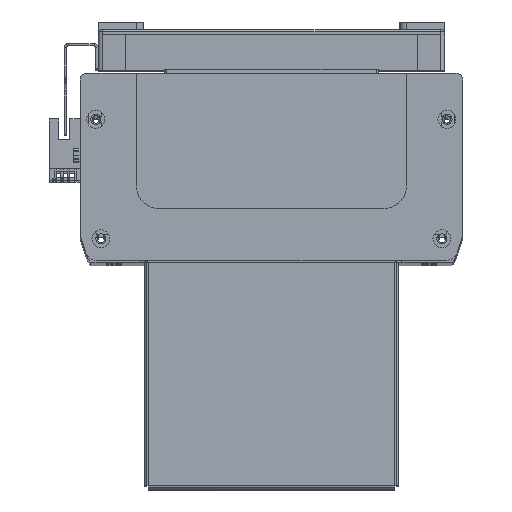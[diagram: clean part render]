
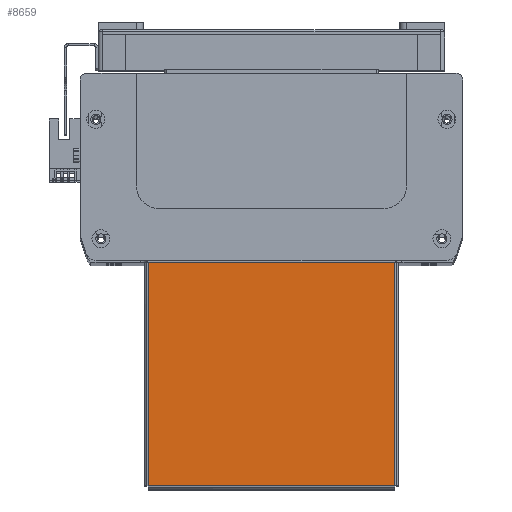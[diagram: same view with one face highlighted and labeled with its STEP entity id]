
A CAD part, top view. The second image highlights one B-rep face of the part: STEP entity #8659.
In plain terms, the highlighted planar face has unit normal (0, 0, 1).
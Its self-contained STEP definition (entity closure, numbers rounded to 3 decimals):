
#318 = CARTESIAN_POINT ( 'NONE',  ( -54.763, -49.263, 0. ) ) ;
#342 = CARTESIAN_POINT ( 'NONE',  ( 54.763, 50., 0. ) ) ;
#343 = CARTESIAN_POINT ( 'NONE',  ( 54.763, -49.263, 0. ) ) ;
#357 = CARTESIAN_POINT ( 'NONE',  ( -54.763, 50., 0. ) ) ;
#1985 = EDGE_LOOP ( 'NONE', ( #33148, #33144, #33143, #33154 ) ) ;
#3549 = LINE ( 'NONE', #12715, #3561 ) ;
#3561 = VECTOR ( 'NONE', #12712, 1000. ) ;
#3564 = LINE ( 'NONE', #12704, #3565 ) ;
#3565 = VECTOR ( 'NONE', #12747, 1000. ) ;
#3593 = LINE ( 'NONE', #12790, #3628 ) ;
#3612 = VECTOR ( 'NONE', #12846, 1000. ) ;
#3628 = VECTOR ( 'NONE', #12791, 1000. ) ;
#3632 = LINE ( 'NONE', #12845, #3612 ) ;
#8659 = ADVANCED_FACE ( 'NONE', ( #18585 ), #22656, .T. ) ;
#12704 = CARTESIAN_POINT ( 'NONE',  ( -54.763, 50., 0. ) ) ;
#12712 = DIRECTION ( 'NONE',  ( -1., 0., 0. ) ) ;
#12715 = CARTESIAN_POINT ( 'NONE',  ( -55.5, 50., 0. ) ) ;
#12747 = DIRECTION ( 'NONE',  ( 0., -1., 0. ) ) ;
#12790 = CARTESIAN_POINT ( 'NONE',  ( 54.763, -49.293, 0. ) ) ;
#12791 = DIRECTION ( 'NONE',  ( 0., 1., 0. ) ) ;
#12845 = CARTESIAN_POINT ( 'NONE',  ( -54.793, -49.263, 0. ) ) ;
#12846 = DIRECTION ( 'NONE',  ( 1., 0., 0. ) ) ;
#18585 = FACE_OUTER_BOUND ( 'NONE', #1985, .T. ) ;
#20675 = EDGE_CURVE ( 'NONE', #45544, #45561, #3549, .T. ) ;
#20688 = EDGE_CURVE ( 'NONE', #45561, #45541, #3564, .T. ) ;
#20716 = EDGE_CURVE ( 'NONE', #45530, #45544, #3593, .T. ) ;
#20732 = EDGE_CURVE ( 'NONE', #45541, #45530, #3632, .T. ) ;
#22650 = CARTESIAN_POINT ( 'NONE',  ( 0., 0., 0. ) ) ;
#22653 = DIRECTION ( 'NONE',  ( 0., 0., 1. ) ) ;
#22656 = PLANE ( 'NONE',  #24471 ) ;
#22659 = DIRECTION ( 'NONE',  ( 1., 0., 0. ) ) ;
#24471 = AXIS2_PLACEMENT_3D ( 'NONE', #22650, #22653, #22659 ) ;
#33143 = ORIENTED_EDGE ( 'NONE', *, *, #20716, .T. ) ;
#33144 = ORIENTED_EDGE ( 'NONE', *, *, #20732, .T. ) ;
#33148 = ORIENTED_EDGE ( 'NONE', *, *, #20688, .T. ) ;
#33154 = ORIENTED_EDGE ( 'NONE', *, *, #20675, .T. ) ;
#45530 = VERTEX_POINT ( 'NONE', #343 ) ;
#45541 = VERTEX_POINT ( 'NONE', #318 ) ;
#45544 = VERTEX_POINT ( 'NONE', #342 ) ;
#45561 = VERTEX_POINT ( 'NONE', #357 ) ;
